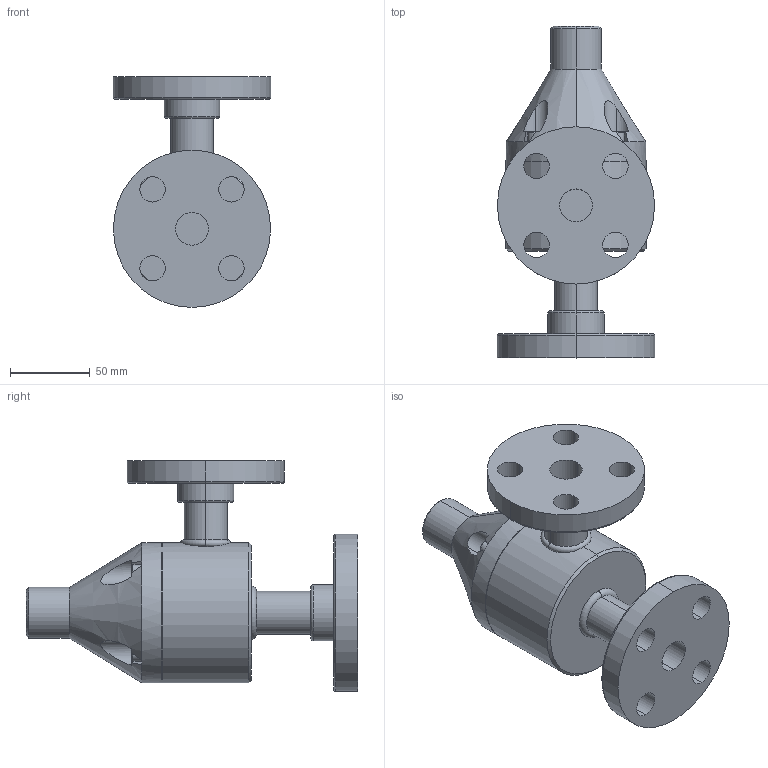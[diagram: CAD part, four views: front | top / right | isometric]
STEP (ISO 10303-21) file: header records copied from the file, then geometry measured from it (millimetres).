
FILE_DESCRIPTION (( 'STEP AP203' ), '1' );
FILE_NAME ('GBP0750_90-FLNG.STEP', '2016-02-12T10:26:45', ( '' ), ( '' ), 'SwSTEP 2.0', 'SolidWorks 2014', '' );
FILE_SCHEMA (( 'CONFIG_CONTROL_DESIGN' ));
Length unit declared in the file: inch
Products named in the file (2): GBP0750_90-FLNG
Bounding box: 98.42 x 207.65 x 144.46 mm (x, y, z)
Volume: 808775.6 mm3; surface area: 97930.6 mm2
Topology: 1 solids, 1 shells, 165 faces, 391 edges, 248 vertices
Faces by surface type: plane 77, cylinder 56, cone 18, torus 14
Entity records: 5274 total; most frequent: CARTESIAN_POINT 1158, DIRECTION 875, ORIENTED_EDGE 782, EDGE_CURVE 391, AXIS2_PLACEMENT_3D 335, VERTEX_POINT 248, VECTOR 205, LINE 205
